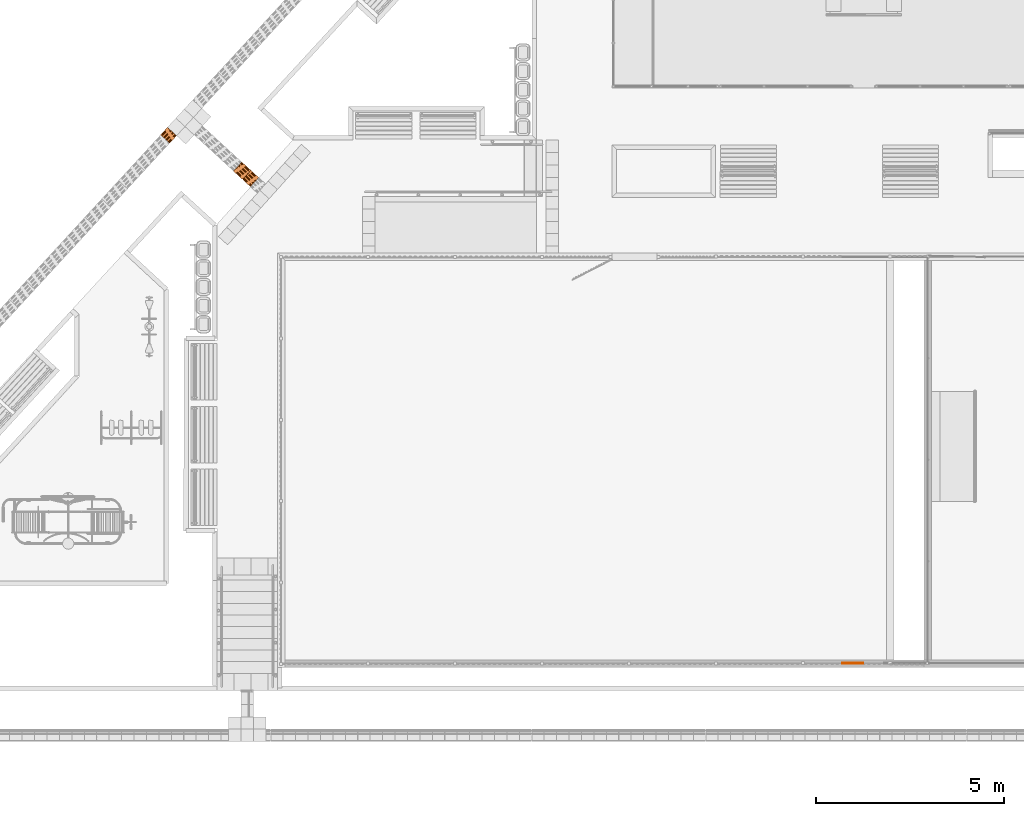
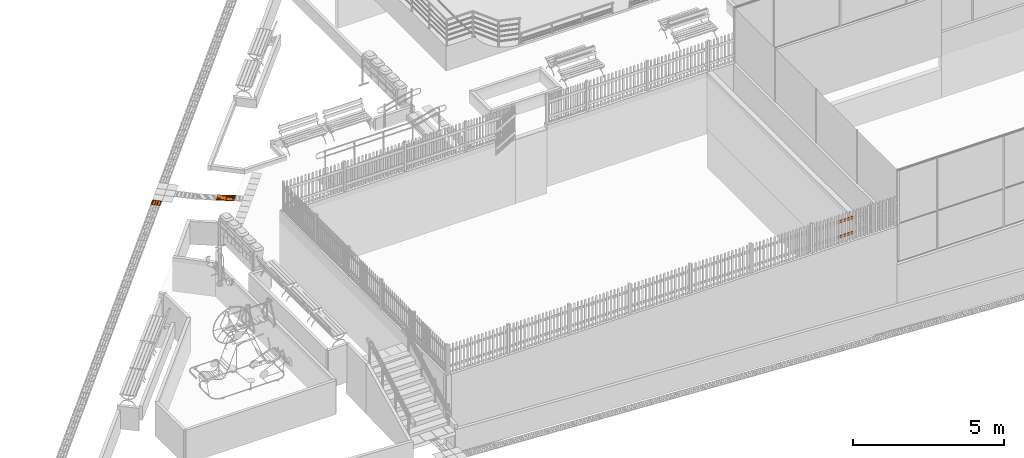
# One storey, part 218 of 237: 5 proxies.
"""IFC2X3 building model written with IfcOpenShell, lengths in millimetres."""

import ifcopenshell
import ifcopenshell.guid

model = None  # the IFC model being written
_history = None  # IfcOwnerHistory: only IFC2X3 demands one
_inside = {}  # id of a spatial element -> (the spatial element, [elements in it])
_under = {}  # id of a project, library or spatial element -> (it, [spatial elements below it])
_declared = {}  # id of a project -> (the project, [libraries it declares])
_typed = {}  # id of a type object -> (the type object, [elements of that type])
_made_of = {}  # id of a material, layer set ... -> (it, [elements and type objects made of it])


def new_model(schema):
    """Start an empty IFC model of exactly this schema.

    Asked for "IFC4X3", IfcOpenShell would pick the latest addendum, in which some entities
    have other attributes; the version numbers below select the first issue.
    IFC2X3 requires an IfcOwnerHistory on every rooted entity: one is made here for all.
    """
    global model, _history
    if schema == "IFC4X3":
        model = ifcopenshell.file(schema_version=(4, 3, 0, 0))
    else:
        model = ifcopenshell.file(schema=schema)
    _inside.clear()
    _under.clear()
    _declared.clear()
    _typed.clear()
    _made_of.clear()
    _history = None
    if model.schema == "IFC2X3":
        org = make("IfcOrganization", Name="unknown")
        user = make(
            "IfcPersonAndOrganization",
            ThePerson=make("IfcPerson", FamilyName="unknown"),
            TheOrganization=org,
        )
        app = make(
            "IfcApplication",
            ApplicationDeveloper=org,
            Version="unknown",
            ApplicationFullName="unknown",
            ApplicationIdentifier="unknown",
        )
        _history = make(
            "IfcOwnerHistory",
            OwningUser=user,
            OwningApplication=app,
            ChangeAction="ADDED",
            CreationDate=0,
        )
    return model


def make(cls, **values):
    """One entity of the class cls with the attributes given. An attribute that is None is left unset."""
    return model.create_entity(
        cls, **{name: value for name, value in values.items() if value is not None}
    )


def entity(cls, *values):
    """Any entity or typed value of the class cls, its attributes in the order of the schema. None: left unset."""
    e = model.create_entity(cls)
    for i, value in enumerate(values):
        if value is not None:
            e[i] = value
    return e


def rooted(cls, **values):
    """An entity with a GlobalId (a new one), such as an element, a storey or a relation."""
    return make(cls, GlobalId=ifcopenshell.guid.new(), OwnerHistory=_history, **values)


def si_unit(unit_type, name, prefix=None):
    """IfcSIUnit, for example si_unit("LENGTHUNIT", "METRE", prefix="MILLI")."""
    return make("IfcSIUnit", UnitType=unit_type, Prefix=prefix, Name=name)


def converted_unit(unit_type, name, factor, base, dimensions=None, offset=None):
    """IfcConversionBasedUnit, such as the inch: factor (a typed value) times the base unit."""
    return make(
        "IfcConversionBasedUnit"
        if offset is None
        else "IfcConversionBasedUnitWithOffset",
        ConversionOffset=offset,
        Dimensions=None
        if dimensions is None
        else entity("IfcDimensionalExponents", *dimensions),
        UnitType=unit_type,
        Name=name,
        ConversionFactor=make(
            "IfcMeasureWithUnit", ValueComponent=factor, UnitComponent=base
        ),
    )


def derived_unit(unit_type, elements):
    """IfcDerivedUnit: a product of units, each with its exponent."""
    return make(
        "IfcDerivedUnit",
        Elements=[
            make("IfcDerivedUnitElement", Unit=unit, Exponent=power)
            for unit, power in elements
        ],
        UnitType=unit_type,
    )


def money_unit(currency):
    """IfcMonetaryUnit."""
    return make("IfcMonetaryUnit", Currency=currency)


def assignment(units):
    """IfcUnitAssignment: the units of a project."""
    return None if units is None else make("IfcUnitAssignment", Units=units)


def point(xyz):
    """IfcCartesianPoint."""
    return None if xyz is None else make("IfcCartesianPoint", Coordinates=xyz)


def direction(xyz):
    """IfcDirection."""
    return None if xyz is None else make("IfcDirection", DirectionRatios=xyz)


def frame(location, z_axis=None, x_axis=None):
    """IfcAxis2Placement3D, a coordinate frame: its origin and axes. An axis left out is left unset."""
    return make(
        "IfcAxis2Placement3D",
        Location=point(location),
        Axis=direction(z_axis),
        RefDirection=direction(x_axis),
    )


def origin_with_axes():
    """The frame at (0, 0, 0) with the z axis (0, 0, 1) and the x axis (1, 0, 0) written out."""
    return frame((0.0, 0.0, 0.0), z_axis=(0.0, 0.0, 1.0), x_axis=(1.0, 0.0, 0.0))


def place(relative_to, where):
    """IfcLocalPlacement: puts the frame where relative to a parent placement (None: the world)."""
    return make(
        "IfcLocalPlacement", PlacementRelTo=relative_to, RelativePlacement=where
    )


def context(
    kind, dimensions, precision=None, world=None, true_north=None, identifier=None
):
    """IfcGeometricRepresentationContext, for example the 3D "Model" context."""
    return make(
        "IfcGeometricRepresentationContext",
        ContextIdentifier=identifier,
        ContextType=kind,
        CoordinateSpaceDimension=dimensions,
        Precision=precision,
        WorldCoordinateSystem=world,
        TrueNorth=true_north,
    )


def subcontext(parent, identifier, kind, view, scale=None):
    """IfcGeometricRepresentationSubContext, for example "Body" below "Model"."""
    return make(
        "IfcGeometricRepresentationSubContext",
        ContextIdentifier=identifier,
        ContextType=kind,
        ParentContext=parent,
        TargetScale=scale,
        TargetView=view,
    )


def project(units=None, contexts=None):
    """IfcProject with its units and contexts."""
    return rooted(
        "IfcProject",
        Name="project",
        RepresentationContexts=contexts,
        UnitsInContext=assignment(units),
    )


def spatial(cls, under=None, at=None, **own):
    """A site, building, storey or space (cls), placed at a placement, below another one or the project."""
    s = rooted(cls, ObjectPlacement=at, **own)
    if under is not None:
        _under.setdefault(under.id(), (under, []))[1].append(s)
    return s


def faces_of(points, faces, orient=None, outer=None):
    """IfcFace entities. A face is a list of loops; a loop is a list of indices into points, from 0.

    orient and outer hold one flag for each loop. By default every Orientation is true, the
    first loop of a face is its IfcFaceOuterBound and the others are IfcFaceBound.
    """
    made = []
    for i, loops in enumerate(faces):
        bounds = []
        for j, loop in enumerate(loops):
            is_outer = j == 0 if outer is None else outer[i][j]
            bounds.append(
                make(
                    "IfcFaceOuterBound" if is_outer else "IfcFaceBound",
                    Bound=make("IfcPolyLoop", Polygon=[points[k] for k in loop]),
                    Orientation=True if orient is None else orient[i][j],
                )
            )
        made.append(make("IfcFace", Bounds=bounds))
    return made


def open_shell(faces, orient=None, outer=None):
    """The faces of one IfcOpenShell. surface_model builds it on its shared points."""
    return ("IfcOpenShell", faces, orient, outer)


def faceted_brep(points, faces, orient=None, outer=None, voids=None):
    """IfcFacetedBrep: a solid bounded by flat faces; with voids (closed shells), ...WithVoids."""
    shared = [point(p) for p in points]
    hull = make("IfcClosedShell", CfsFaces=faces_of(shared, faces, orient, outer))
    if voids is None:
        return make("IfcFacetedBrep", Outer=hull)
    return make(
        "IfcFacetedBrepWithVoids",
        Outer=hull,
        Voids=[
            make(cls, CfsFaces=faces_of(shared, fs, o, b)) for cls, fs, o, b in voids
        ],
    )


def surface_model(cls, points, shells):
    """IfcFaceBasedSurfaceModel or IfcShellBasedSurfaceModel (cls): surfaces that need not close."""
    shared = [point(p) for p in points]
    made = [make(c, CfsFaces=faces_of(shared, fs, o, b)) for c, fs, o, b in shells]
    if cls == "IfcFaceBasedSurfaceModel":
        return make(cls, FbsmFaces=made)
    return make(cls, SbsmBoundary=made)


def shape(context_of_items, identifier, shape_type, items):
    """IfcShapeRepresentation: the items that make up one representation, for example the "Body"."""
    return make(
        "IfcShapeRepresentation",
        ContextOfItems=context_of_items,
        RepresentationIdentifier=identifier,
        RepresentationType=shape_type,
        Items=items,
    )


def made_of(thing, what):
    """Note that an element or type object is made of a material, layer set ...; save() writes the relation."""
    if what is not None:
        _made_of.setdefault(what.id(), (what, []))[1].append(thing)
    return thing


def type_object(cls, material=None, **own):
    """A type object (cls), such as IfcWallType, which elements share."""
    return made_of(rooted(cls, **own), material)


def element(
    cls,
    number,
    at=None,
    inside=None,
    cuts=None,
    type_object=None,
    material=None,
    context=None,
    identifier="Body",
    shape_type=None,
    held_by="IfcProductDefinitionShape",
    body=None,
    shapes=None,
    **own,
):
    """One element of the class cls, such as IfcWall. Its Tag is "e" and its number.

    at: its placement. inside: the storey or other place that contains it. cuts: it is an
    opening in that element (IfcRelVoidsElement). A single representation is given by context,
    identifier, shape_type and body (its items); several are given by shapes. held_by: the class
    of the entity that holds the representations. save() writes the other relations.
    """
    e = rooted(cls, Tag="e%d" % number, ObjectPlacement=at, **own)
    if body is not None:
        shapes = [shape(context, identifier, shape_type, body)]
    if shapes is not None:
        e.Representation = make(held_by, Representations=shapes)
    if inside is not None:
        _inside.setdefault(inside.id(), (inside, []))[1].append(e)
    if cuts is not None:
        rooted(
            "IfcRelVoidsElement", RelatingBuildingElement=cuts, RelatedOpeningElement=e
        )
    if type_object is not None:
        _typed.setdefault(type_object.id(), (type_object, []))[1].append(e)
    return made_of(e, material)


def aggregate(whole, parts):
    """IfcRelAggregates: a whole, such as a stair, and the parts it consists of."""
    return rooted("IfcRelAggregates", RelatingObject=whole, RelatedObjects=parts)


def save(model, path):
    """Write the relations noted so far, then the file.

    IfcRelAggregates (storeys below a building ...), IfcRelContainedInSpatialStructure (elements
    in a storey), IfcRelDefinesByType, IfcRelAssociatesMaterial and IfcRelDeclares: one each for
    every whole, place, type object, material and project.
    """
    for whole, parts in _under.values():
        aggregate(whole, parts)
    for where, things in _inside.values():
        rooted(
            "IfcRelContainedInSpatialStructure",
            RelatedElements=things,
            RelatingStructure=where,
        )
    for kind, things in _typed.values():
        rooted("IfcRelDefinesByType", RelatedObjects=things, RelatingType=kind)
    for what, things in _made_of.values():
        rooted("IfcRelAssociatesMaterial", RelatedObjects=things, RelatingMaterial=what)
    for by, libraries in _declared.values():
        rooted("IfcRelDeclares", RelatingContext=by, RelatedDefinitions=libraries)
    model.write(path)


model = new_model("IFC2X3")

# Units and contexts
model_context = context("Model", 3, precision=0.01, world=origin_with_axes(), true_north=direction((0.0, 1.0)))
body_context = subcontext(model_context, "Body", "Model", "MODEL_VIEW")
ifc_project = project(units=[si_unit("LENGTHUNIT", "METRE", prefix="MILLI"), si_unit("AREAUNIT", "SQUARE_METRE"), si_unit("VOLUMEUNIT", "CUBIC_METRE"), converted_unit("PLANEANGLEUNIT", "DEGREE", entity("IfcPlaneAngleMeasure", 0.0174532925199), si_unit("PLANEANGLEUNIT", "RADIAN"), dimensions=[0, 0, 0, 0, 0, 0, 0]), money_unit("USD"), converted_unit("TIMEUNIT", "Year", entity("IfcTimeMeasure", 31556926.0), si_unit("TIMEUNIT", "SECOND"), dimensions=[0, 0, 1, 0, 0, 0, 0]), si_unit("MASSUNIT", "GRAM", prefix="KILO"), si_unit("THERMODYNAMICTEMPERATUREUNIT", "DEGREE_CELSIUS"), si_unit("LUMINOUSINTENSITYUNIT", "LUMEN"), si_unit("ENERGYUNIT", "JOULE", prefix="MEGA"), derived_unit("THERMALCONDUCTANCEUNIT", [(si_unit("POWERUNIT", "WATT"), 1), (si_unit("LENGTHUNIT", "METRE"), -1), (si_unit("THERMODYNAMICTEMPERATUREUNIT", "KELVIN"), -1)]), derived_unit("SPECIFICHEATCAPACITYUNIT", [(si_unit("ENERGYUNIT", "JOULE"), 1), (si_unit("MASSUNIT", "GRAM", prefix="KILO"), -1), (si_unit("THERMODYNAMICTEMPERATUREUNIT", "KELVIN"), -1)]), derived_unit("MASSDENSITYUNIT", [(si_unit("MASSUNIT", "GRAM", prefix="KILO"), 1), (si_unit("VOLUMEUNIT", "CUBIC_METRE"), -1)])], contexts=[model_context])

# Site, building, storey
site_placement = place(None, origin_with_axes())
site = spatial("IfcSite", under=ifc_project, at=site_placement, Name="Local", CompositionType="ELEMENT")
building_placement = place(site_placement, origin_with_axes())
building = spatial("IfcBuilding", under=site, at=building_placement, Name="Construção", CompositionType="ELEMENT")
storey_placement = place(building_placement, origin_with_axes())
storey = spatial("IfcBuildingStorey", under=building, at=storey_placement, Name="Pavimento Térreo", CompositionType="ELEMENT", Elevation=0.0)

# Proxies
building_element_proxy_type_1 = type_object("IfcBuildingElementProxyType", Name="Piso Direcional 27", PredefinedType="NOTDEFINED")
proxy_1_placement = place(storey_placement, frame((39355.5465019, 26892.5452298, -1771.33140058), z_axis=(0.0, 0.0, 1.0), x_axis=(-0.677327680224, -0.735681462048, 0.0)))
element("IfcBuildingElementProxy", 1, at=proxy_1_placement, inside=storey, type_object=building_element_proxy_type_1, Name="Objeto-0055", context=body_context, shape_type="SurfaceModel", body=[
    surface_model("IfcShellBasedSurfaceModel", [(0.126538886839, -47.258225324, 4.02653266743), (271.512965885, -47.258225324, -4.50212938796), (271.722370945, -41.665004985, 2.16124768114), (0.33594394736, -41.665004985, 10.6899097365)], [open_shell([[[0, 1, 2, 3]]])]),
    surface_model("IfcShellBasedSurfaceModel", [(271.094155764, -153.529411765, -17.8288835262), (271.094155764, 176.470588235, -17.8288835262), (271.512965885, 176.470588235, -4.50212938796), (271.512965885, 154.097706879, -4.50212938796), (271.722370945, 148.50448654, 2.16124768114), (271.722370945, 126.131605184, 2.16124768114), (271.512965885, 120.538384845, -4.50212938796), (271.512965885, 70.1994017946, -4.50212938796), (271.722370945, 64.6061814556, 2.16124768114), (271.722370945, 42.2333000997, 2.16124768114), (271.512965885, 36.6400797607, -4.50212938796), (271.512965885, -13.6989032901, -4.50212938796), (271.722370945, -19.2921236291, 2.16124768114), (271.722370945, -41.665004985, 2.16124768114), (271.512965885, -47.258225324, -4.50212938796), (271.512965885, -97.5972083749, -4.50212938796), (271.722370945, -103.190428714, 2.16124768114), (271.722370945, -125.56331007, 2.16124768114), (271.512965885, -131.156530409, -4.50212938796), (271.512965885, -153.529411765, -4.50212938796)], [open_shell([[[0, 1, 2, 3, 4, 5, 6, 7, 8, 9, 10, 11, 12, 13, 14, 15, 16, 17, 18, 19]]])]),
    surface_model("IfcShellBasedSurfaceModel", [(0.33594394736, -19.2921236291, 10.6899097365), (271.722370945, -19.2921236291, 2.16124768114), (271.512965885, -13.6989032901, -4.50212938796), (0.126538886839, -13.6989032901, 4.02653266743)], [open_shell([[[0, 1, 2, 3]]])]),
    surface_model("IfcShellBasedSurfaceModel", [(0.33594394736, -103.190428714, 10.6899097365), (271.722370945, -103.190428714, 2.16124768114), (271.512965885, -97.5972083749, -4.50212938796), (0.126538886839, -97.5972083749, 4.02653266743)], [open_shell([[[0, 1, 2, 3]]])]),
    surface_model("IfcShellBasedSurfaceModel", [(0.33594394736, 64.6061814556, 10.6899097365), (271.722370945, 64.6061814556, 2.16124768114), (271.512965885, 70.1994017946, -4.50212938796), (0.126538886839, 70.1994017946, 4.02653266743)], [open_shell([[[0, 1, 2, 3]]])]),
    surface_model("IfcShellBasedSurfaceModel", [(0.126538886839, 36.6400797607, 4.02653266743), (271.512965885, 36.6400797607, -4.50212938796), (271.722370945, 42.2333000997, 2.16124768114), (0.33594394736, 42.2333000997, 10.6899097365)], [open_shell([[[0, 1, 2, 3]]])]),
    surface_model("IfcShellBasedSurfaceModel", [(0.126538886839, -131.156530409, 4.02653266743), (271.512965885, -131.156530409, -4.50212938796), (271.722370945, -125.56331007, 2.16124768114), (0.33594394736, -125.56331007, 10.6899097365)], [open_shell([[[0, 1, 2, 3]]])]),
    surface_model("IfcShellBasedSurfaceModel", [(0.126538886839, 176.470588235, 4.02653266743), (0.126538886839, 154.097706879, 4.02653266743), (271.512965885, 154.097706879, -4.50212938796), (271.512965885, 176.470588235, -4.50212938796)], [open_shell([[[0, 1, 2, 3]]])]),
    surface_model("IfcShellBasedSurfaceModel", [(0.126538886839, 120.538384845, 4.02653266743), (271.512965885, 120.538384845, -4.50212938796), (271.722370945, 126.131605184, 2.16124768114), (0.33594394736, 126.131605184, 10.6899097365)], [open_shell([[[0, 1, 2, 3]]])]),
    surface_model("IfcShellBasedSurfaceModel", [(0.33594394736, 148.50448654, 10.6899097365), (271.722370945, 148.50448654, 2.16124768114), (271.512965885, 154.097706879, -4.50212938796), (0.126538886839, 154.097706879, 4.02653266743)], [open_shell([[[0, 1, 2, 3]]])]),
    surface_model("IfcShellBasedSurfaceModel", [(0.126538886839, 36.6400797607, 4.02653266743), (0.126538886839, -13.6989032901, 4.02653266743), (271.512965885, -13.6989032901, -4.50212938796), (271.512965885, 36.6400797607, -4.50212938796)], [open_shell([[[0, 1, 2, 3]]])]),
    surface_model("IfcShellBasedSurfaceModel", [(0.126538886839, 120.538384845, 4.02653266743), (0.126538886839, 70.1994017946, 4.02653266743), (271.512965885, 70.1994017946, -4.50212938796), (271.512965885, 120.538384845, -4.50212938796)], [open_shell([[[0, 1, 2, 3]]])]),
    surface_model("IfcShellBasedSurfaceModel", [(0.33594394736, 148.50448654, 10.6899097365), (0.33594394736, 126.131605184, 10.6899097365), (271.722370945, 126.131605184, 2.16124768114), (271.722370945, 148.50448654, 2.16124768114)], [open_shell([[[0, 1, 2, 3]]])]),
    surface_model("IfcShellBasedSurfaceModel", [(0.126538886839, 120.538384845, 4.02653266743), (0.33594394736, 126.131605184, 10.6899097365), (0.33594394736, 148.50448654, 10.6899097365), (0.126538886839, 154.097706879, 4.02653266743), (0.126538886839, 176.470588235, 4.02653266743), (-0.292271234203, 176.470588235, -9.30022147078), (-0.292271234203, -153.529411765, -9.30022147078), (0.126538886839, -153.529411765, 4.02653266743), (0.126538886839, -131.156530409, 4.02653266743), (0.33594394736, -125.56331007, 10.6899097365), (0.33594394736, -103.190428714, 10.6899097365), (0.126538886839, -97.5972083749, 4.02653266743), (0.126538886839, -47.258225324, 4.02653266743), (0.33594394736, -41.665004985, 10.6899097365), (0.33594394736, -19.2921236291, 10.6899097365), (0.126538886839, -13.6989032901, 4.02653266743), (0.126538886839, 36.6400797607, 4.02653266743), (0.33594394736, 42.2333000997, 10.6899097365), (0.33594394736, 64.6061814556, 10.6899097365), (0.126538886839, 70.1994017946, 4.02653266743)], [open_shell([[[0, 1, 2, 3, 4, 5, 6, 7, 8, 9, 10, 11, 12, 13, 14, 15, 16, 17, 18, 19]]])]),
    surface_model("IfcShellBasedSurfaceModel", [(271.722370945, -41.665004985, 2.16124768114), (271.722370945, -19.2921236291, 2.16124768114), (0.33594394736, -19.2921236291, 10.6899097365), (0.33594394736, -41.665004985, 10.6899097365)], [open_shell([[[0, 1, 2, 3]]])]),
    surface_model("IfcShellBasedSurfaceModel", [(0.126538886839, -47.258225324, 4.02653266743), (0.126538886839, -97.5972083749, 4.02653266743), (271.512965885, -97.5972083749, -4.50212938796), (271.512965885, -47.258225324, -4.50212938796)], [open_shell([[[0, 1, 2, 3]]])]),
    surface_model("IfcShellBasedSurfaceModel", [(271.722370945, 42.2333000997, 2.16124768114), (271.722370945, 64.6061814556, 2.16124768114), (0.33594394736, 64.6061814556, 10.6899097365), (0.33594394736, 42.2333000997, 10.6899097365)], [open_shell([[[0, 1, 2, 3]]])]),
    surface_model("IfcShellBasedSurfaceModel", [(271.722370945, -125.56331007, 2.16124768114), (271.722370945, -103.190428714, 2.16124768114), (0.33594394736, -103.190428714, 10.6899097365), (0.33594394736, -125.56331007, 10.6899097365)], [open_shell([[[0, 1, 2, 3]]])]),
    surface_model("IfcShellBasedSurfaceModel", [(271.094155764, 176.470588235, -17.8288835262), (-0.292271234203, 176.470588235, -9.30022147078), (0.126538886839, 176.470588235, 4.02653266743), (271.512965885, 176.470588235, -4.50212938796)], [open_shell([[[0, 1, 2, 3]]])]),
    surface_model("IfcShellBasedSurfaceModel", [(271.094155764, -153.529411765, -17.8288835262), (-0.292271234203, -153.529411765, -9.30022147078), (-0.292271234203, 176.470588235, -9.30022147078), (271.094155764, 176.470588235, -17.8288835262)], [open_shell([[[0, 1, 2, 3]]])]),
    surface_model("IfcShellBasedSurfaceModel", [(271.512965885, -153.529411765, -4.50212938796), (271.512965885, -131.156530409, -4.50212938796), (0.126538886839, -131.156530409, 4.02653266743), (0.126538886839, -153.529411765, 4.02653266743)], [open_shell([[[0, 1, 2, 3]]])]),
    surface_model("IfcShellBasedSurfaceModel", [(-0.292271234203, -153.529411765, -9.30022147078), (271.094155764, -153.529411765, -17.8288835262), (271.512965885, -153.529411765, -4.50212938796), (0.126538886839, -153.529411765, 4.02653266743)], [open_shell([[[0, 1, 2, 3]]])]),
])
proxy_2_placement = place(storey_placement, frame((41356.8823737, 25739.0088243, -1657.50029992), z_axis=(0.0, 0.0, 1.0), x_axis=(-0.735681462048, 0.677327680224, 0.0)))
element("IfcBuildingElementProxy", 2, at=proxy_2_placement, inside=storey, type_object=building_element_proxy_type_1, Name="Objeto-0055", context=body_context, shape_type="SurfaceModel", body=[
    surface_model("IfcShellBasedSurfaceModel", [(0.410492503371, -47.3098657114, 3.34319315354), (327.950722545, -47.3098657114, -36.8736901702), (328.772622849, -41.8102717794, -30.1798493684), (1.23239280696, -41.8102717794, 10.0370339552)], [open_shell([[[0, 1, 2, 3]]])]),
    surface_model("IfcShellBasedSurfaceModel", [(326.145129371, -153.384530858, -51.5790664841), (326.706644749, 176.583302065, -47.005890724), (328.331410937, 176.39713966, -33.7732320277), (328.293342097, 154.026439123, -34.0832778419), (329.096207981, 148.340682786, -27.5444599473), (329.058139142, 125.969982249, -27.8545057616), (328.236238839, 120.470388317, -34.5483465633), (328.150583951, 70.1363121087, -35.2459496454), (328.953449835, 64.4505557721, -28.7071317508), (328.915380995, 42.079855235, -29.017177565), (328.093480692, 36.5802613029, -35.7110183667), (328.007825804, -13.7538149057, -36.4086214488), (328.810691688, -19.4395712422, -29.8698035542), (328.772622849, -41.8102717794, -30.1798493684), (327.950722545, -47.3098657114, -36.8736901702), (327.865067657, -97.64394192, -37.5712932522), (328.667933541, -103.329698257, -31.0324753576), (328.629864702, -125.700398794, -31.3425211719), (327.807964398, -131.199992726, -38.0363619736), (327.769895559, -153.570693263, -38.3464077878)], [open_shell([[[0, 1, 2, 3, 4, 5, 6, 7, 8, 9, 10, 11, 12, 13, 14, 15, 16, 17, 18, 19]]])]),
    surface_model("IfcShellBasedSurfaceModel", [(1.27046164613, -19.4395712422, 10.3470797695), (328.810691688, -19.4395712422, -29.8698035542), (328.007825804, -13.7538149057, -36.4086214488), (0.467595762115, -13.7538149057, 3.80826187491)], [open_shell([[[0, 1, 2, 3]]])]),
    surface_model("IfcShellBasedSurfaceModel", [(1.12770349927, -103.329698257, 9.18440796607), (328.667933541, -103.329698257, -31.0324753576), (327.865067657, -97.64394192, -37.5712932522), (0.324837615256, -97.64394192, 2.64559007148)], [open_shell([[[0, 1, 2, 3]]])]),
    surface_model("IfcShellBasedSurfaceModel", [(1.41321979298, 64.4505557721, 11.5097515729), (328.953449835, 64.4505557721, -28.7071317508), (328.150583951, 70.1363121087, -35.2459496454), (0.610353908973, 70.1363121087, 4.97093367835)], [open_shell([[[0, 1, 2, 3]]])]),
    surface_model("IfcShellBasedSurfaceModel", [(0.55325065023, 36.5802613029, 4.50586495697), (328.093480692, 36.5802613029, -35.7110183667), (328.915380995, 42.079855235, -29.017177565), (1.37515095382, 42.079855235, 11.1997057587)], [open_shell([[[0, 1, 2, 3]]])]),
    surface_model("IfcShellBasedSurfaceModel", [(0.267734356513, -131.199992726, 2.18052135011), (327.807964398, -131.199992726, -38.0363619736), (328.629864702, -125.700398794, -31.3425211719), (1.0896346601, -125.700398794, 8.87436215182)], [open_shell([[[0, 1, 2, 3]]])]),
    surface_model("IfcShellBasedSurfaceModel", [(0.791180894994, 176.39713966, 6.44365129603), (0.753112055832, 154.026439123, 6.13360548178), (328.293342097, 154.026439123, -34.0832778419), (328.331410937, 176.39713966, -33.7732320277)], [open_shell([[[0, 1, 2, 3]]])]),
    surface_model("IfcShellBasedSurfaceModel", [(0.696008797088, 120.470388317, 5.66853676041), (328.236238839, 120.470388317, -34.5483465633), (329.058139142, 125.969982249, -27.8545057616), (1.51790910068, 125.969982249, 12.3623775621)], [open_shell([[[0, 1, 2, 3]]])]),
    surface_model("IfcShellBasedSurfaceModel", [(1.55597793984, 148.340682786, 12.6724233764), (329.096207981, 148.340682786, -27.5444599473), (328.293342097, 154.026439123, -34.0832778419), (0.753112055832, 154.026439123, 6.13360548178)], [open_shell([[[0, 1, 2, 3]]])]),
    surface_model("IfcShellBasedSurfaceModel", [(0.55325065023, 36.5802613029, 4.50586495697), (0.467595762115, -13.7538149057, 3.80826187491), (328.007825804, -13.7538149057, -36.4086214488), (328.093480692, 36.5802613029, -35.7110183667)], [open_shell([[[0, 1, 2, 3]]])]),
    surface_model("IfcShellBasedSurfaceModel", [(0.696008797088, 120.470388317, 5.66853676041), (0.610353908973, 70.1363121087, 4.97093367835), (328.150583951, 70.1363121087, -35.2459496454), (328.236238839, 120.470388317, -34.5483465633)], [open_shell([[[0, 1, 2, 3]]])]),
    surface_model("IfcShellBasedSurfaceModel", [(1.55597793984, 148.340682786, 12.6724233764), (1.51790910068, 125.969982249, 12.3623775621), (329.058139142, 125.969982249, -27.8545057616), (329.096207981, 148.340682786, -27.5444599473)], [open_shell([[[0, 1, 2, 3]]])]),
    surface_model("IfcShellBasedSurfaceModel", [(0.696008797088, 120.470388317, 5.66853676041), (1.51790910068, 125.969982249, 12.3623775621), (1.55597793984, 148.340682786, 12.6724233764), (0.753112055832, 154.026439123, 6.13360548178), (0.791180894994, 176.39713966, 6.44365129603), (-0.833585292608, 176.583302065, -6.78900740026), (-1.39510067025, -153.384530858, -11.3621831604), (0.22966551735, -153.570693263, 1.87047553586), (0.267734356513, -131.199992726, 2.18052135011), (1.0896346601, -125.700398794, 8.87436215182), (1.12770349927, -103.329698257, 9.18440796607), (0.324837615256, -97.64394192, 2.64559007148), (0.410492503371, -47.3098657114, 3.34319315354), (1.23239280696, -41.8102717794, 10.0370339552), (1.27046164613, -19.4395712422, 10.3470797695), (0.467595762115, -13.7538149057, 3.80826187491), (0.55325065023, 36.5802613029, 4.50586495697), (1.37515095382, 42.079855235, 11.1997057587), (1.41321979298, 64.4505557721, 11.5097515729), (0.610353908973, 70.1363121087, 4.97093367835)], [open_shell([[[0, 1, 2, 3, 4, 5, 6, 7, 8, 9, 10, 11, 12, 13, 14, 15, 16, 17, 18, 19]]])]),
    surface_model("IfcShellBasedSurfaceModel", [(328.772622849, -41.8102717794, -30.1798493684), (328.810691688, -19.4395712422, -29.8698035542), (1.27046164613, -19.4395712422, 10.3470797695), (1.23239280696, -41.8102717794, 10.0370339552)], [open_shell([[[0, 1, 2, 3]]])]),
    surface_model("IfcShellBasedSurfaceModel", [(0.410492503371, -47.3098657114, 3.34319315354), (0.324837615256, -97.64394192, 2.64559007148), (327.865067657, -97.64394192, -37.5712932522), (327.950722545, -47.3098657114, -36.8736901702)], [open_shell([[[0, 1, 2, 3]]])]),
    surface_model("IfcShellBasedSurfaceModel", [(328.915380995, 42.079855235, -29.017177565), (328.953449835, 64.4505557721, -28.7071317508), (1.41321979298, 64.4505557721, 11.5097515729), (1.37515095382, 42.079855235, 11.1997057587)], [open_shell([[[0, 1, 2, 3]]])]),
    surface_model("IfcShellBasedSurfaceModel", [(328.629864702, -125.700398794, -31.3425211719), (328.667933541, -103.329698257, -31.0324753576), (1.12770349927, -103.329698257, 9.18440796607), (1.0896346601, -125.700398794, 8.87436215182)], [open_shell([[[0, 1, 2, 3]]])]),
    surface_model("IfcShellBasedSurfaceModel", [(326.706644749, 176.583302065, -47.005890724), (-0.833585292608, 176.583302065, -6.78900740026), (0.791180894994, 176.39713966, 6.44365129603), (328.331410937, 176.39713966, -33.7732320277)], [open_shell([[[0, 1, 2, 3]]])]),
    surface_model("IfcShellBasedSurfaceModel", [(326.145129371, -153.384530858, -51.5790664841), (-1.39510067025, -153.384530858, -11.3621831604), (-0.833585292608, 176.583302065, -6.78900740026), (326.706644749, 176.583302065, -47.005890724)], [open_shell([[[0, 1, 2, 3]]])]),
    surface_model("IfcShellBasedSurfaceModel", [(327.769895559, -153.570693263, -38.3464077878), (327.807964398, -131.199992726, -38.0363619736), (0.267734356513, -131.199992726, 2.18052135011), (0.22966551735, -153.570693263, 1.87047553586)], [open_shell([[[0, 1, 2, 3]]])]),
    surface_model("IfcShellBasedSurfaceModel", [(-1.39510067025, -153.384530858, -11.3621831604), (326.145129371, -153.384530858, -51.5790664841), (327.769895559, -153.570693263, -38.3464077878), (0.22966551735, -153.570693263, 1.87047553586)], [open_shell([[[0, 1, 2, 3]]])]),
])
proxy_3_placement = place(storey_placement, frame((41567.7168498, 25544.9017847, -1617.67924311), z_axis=(0.0, 0.0, 1.0), x_axis=(-0.735681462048, 0.677327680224, 0.0)))
element("IfcBuildingElementProxy", 3, at=proxy_3_placement, inside=storey, type_object=building_element_proxy_type_1, Name="Objeto-0055", context=body_context, shape_type="SurfaceModel", body=[
    surface_model("IfcShellBasedSurfaceModel", [(0.55081660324, -47.2511222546, 4.07392745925), (284.311392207, -47.2511222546, -34.2920076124), (285.203324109, -41.6462749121, -27.695136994), (1.44274850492, -41.6462749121, 10.6707980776)], [open_shell([[[0, 1, 2, 3]]])]),
    surface_model("IfcShellBasedSurfaceModel", [(282.549763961, -153.54541788, -47.3212911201), (282.472593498, 176.454079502, -47.8920561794), (284.259073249, 176.477350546, -34.6789669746), (284.264305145, 154.104503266, -34.6402710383), (285.158852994, 148.522926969, -28.0240524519), (285.16408489, 126.150079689, -27.9853565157), (284.272152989, 120.545232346, -34.582227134), (284.283924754, 70.2063259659, -34.4951612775), (285.178472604, 64.6247496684, -27.878942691), (285.1837045, 42.2519023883, -27.8402467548), (284.291772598, 36.6470550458, -34.4371173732), (284.303544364, -13.6918513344, -34.3500515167), (285.198092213, -19.273427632, -27.7338329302), (285.203324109, -41.6462749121, -27.695136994), (284.311392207, -47.2511222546, -34.2920076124), (284.323163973, -97.5900286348, -34.2049417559), (285.217711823, -103.171604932, -27.5887231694), (285.222943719, -125.544452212, -27.5500272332), (284.331011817, -131.149299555, -34.1468978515), (284.336243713, -153.522146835, -34.1082019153)], [open_shell([[[0, 1, 2, 3, 4, 5, 6, 7, 8, 9, 10, 11, 12, 13, 14, 15, 16, 17, 18, 19]]])]),
    surface_model("IfcShellBasedSurfaceModel", [(1.43751660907, -19.273427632, 10.6321021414), (285.198092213, -19.273427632, -27.7338329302), (284.303544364, -13.6918513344, -34.3500515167), (0.542968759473, -13.6918513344, 4.01588355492)], [open_shell([[[0, 1, 2, 3]]])]),
    surface_model("IfcShellBasedSurfaceModel", [(1.45713621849, -103.171604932, 10.7772119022), (285.217711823, -103.171604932, -27.5887231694), (284.323163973, -97.5900286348, -34.2049417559), (0.562588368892, -97.5900286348, 4.16099331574)], [open_shell([[[0, 1, 2, 3]]])]),
    surface_model("IfcShellBasedSurfaceModel", [(1.41789699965, 64.6247496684, 10.4869923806), (285.178472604, 64.6247496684, -27.878942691), (284.283924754, 70.2063259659, -34.4951612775), (0.523349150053, 70.2063259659, 3.87077379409)], [open_shell([[[0, 1, 2, 3]]])]),
    surface_model("IfcShellBasedSurfaceModel", [(0.531196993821, 36.6470550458, 3.92881769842), (284.291772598, 36.6470550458, -34.4371173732), (285.1837045, 42.2519023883, -27.8402467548), (1.4231288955, 42.2519023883, 10.5256883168)], [open_shell([[[0, 1, 2, 3]]])]),
    surface_model("IfcShellBasedSurfaceModel", [(0.57043621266, -131.149299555, 4.21903722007), (284.331011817, -131.149299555, -34.1468978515), (285.222943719, -125.544452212, -27.5500272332), (1.46236811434, -125.544452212, 10.8159078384)], [open_shell([[[0, 1, 2, 3]]])]),
    surface_model("IfcShellBasedSurfaceModel", [(0.498497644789, 176.477350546, 3.68696809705), (0.503729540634, 154.104503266, 3.72566403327), (284.264305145, 154.104503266, -34.6402710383), (284.259073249, 176.477350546, -34.6789669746)], [open_shell([[[0, 1, 2, 3]]])]),
    surface_model("IfcShellBasedSurfaceModel", [(0.511577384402, 120.545232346, 3.7837079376), (284.272152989, 120.545232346, -34.582227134), (285.16408489, 126.150079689, -27.9853565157), (1.40350928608, 126.150079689, 10.380578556)], [open_shell([[[0, 1, 2, 3]]])]),
    surface_model("IfcShellBasedSurfaceModel", [(1.39827739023, 148.522926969, 10.3418826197), (285.158852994, 148.522926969, -28.0240524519), (284.264305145, 154.104503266, -34.6402710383), (0.503729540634, 154.104503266, 3.72566403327)], [open_shell([[[0, 1, 2, 3]]])]),
    surface_model("IfcShellBasedSurfaceModel", [(0.531196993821, 36.6470550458, 3.92881769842), (0.542968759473, -13.6918513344, 4.01588355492), (284.303544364, -13.6918513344, -34.3500515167), (284.291772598, 36.6470550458, -34.4371173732)], [open_shell([[[0, 1, 2, 3]]])]),
    surface_model("IfcShellBasedSurfaceModel", [(0.511577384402, 120.545232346, 3.7837079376), (0.523349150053, 70.2063259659, 3.87077379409), (284.283924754, 70.2063259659, -34.4951612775), (284.272152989, 120.545232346, -34.582227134)], [open_shell([[[0, 1, 2, 3]]])]),
    surface_model("IfcShellBasedSurfaceModel", [(1.39827739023, 148.522926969, 10.3418826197), (1.40350928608, 126.150079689, 10.380578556), (285.16408489, 126.150079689, -27.9853565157), (285.158852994, 148.522926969, -28.0240524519)], [open_shell([[[0, 1, 2, 3]]])]),
    surface_model("IfcShellBasedSurfaceModel", [(0.511577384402, 120.545232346, 3.7837079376), (1.40350928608, 126.150079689, 10.380578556), (1.39827739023, 148.522926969, 10.3418826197), (0.503729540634, 154.104503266, 3.72566403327), (0.498497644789, 176.477350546, 3.68696809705), (-1.28798210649, 176.454079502, -9.52612110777), (-1.21081164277, -153.54541788, -8.95535604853), (0.575668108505, -153.522146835, 4.25773315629), (0.57043621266, -131.149299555, 4.21903722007), (1.46236811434, -125.544452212, 10.8159078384), (1.45713621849, -103.171604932, 10.7772119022), (0.562588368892, -97.5900286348, 4.16099331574), (0.55081660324, -47.2511222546, 4.07392745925), (1.44274850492, -41.6462749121, 10.6707980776), (1.43751660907, -19.273427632, 10.6321021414), (0.542968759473, -13.6918513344, 4.01588355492), (0.531196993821, 36.6470550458, 3.92881769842), (1.4231288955, 42.2519023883, 10.5256883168), (1.41789699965, 64.6247496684, 10.4869923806), (0.523349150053, 70.2063259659, 3.87077379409)], [open_shell([[[0, 1, 2, 3, 4, 5, 6, 7, 8, 9, 10, 11, 12, 13, 14, 15, 16, 17, 18, 19]]])]),
    surface_model("IfcShellBasedSurfaceModel", [(285.203324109, -41.6462749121, -27.695136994), (285.198092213, -19.273427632, -27.7338329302), (1.43751660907, -19.273427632, 10.6321021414), (1.44274850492, -41.6462749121, 10.6707980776)], [open_shell([[[0, 1, 2, 3]]])]),
    surface_model("IfcShellBasedSurfaceModel", [(0.55081660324, -47.2511222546, 4.07392745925), (0.562588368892, -97.5900286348, 4.16099331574), (284.323163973, -97.5900286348, -34.2049417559), (284.311392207, -47.2511222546, -34.2920076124)], [open_shell([[[0, 1, 2, 3]]])]),
    surface_model("IfcShellBasedSurfaceModel", [(285.1837045, 42.2519023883, -27.8402467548), (285.178472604, 64.6247496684, -27.878942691), (1.41789699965, 64.6247496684, 10.4869923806), (1.4231288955, 42.2519023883, 10.5256883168)], [open_shell([[[0, 1, 2, 3]]])]),
    surface_model("IfcShellBasedSurfaceModel", [(285.222943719, -125.544452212, -27.5500272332), (285.217711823, -103.171604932, -27.5887231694), (1.45713621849, -103.171604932, 10.7772119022), (1.46236811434, -125.544452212, 10.8159078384)], [open_shell([[[0, 1, 2, 3]]])]),
    surface_model("IfcShellBasedSurfaceModel", [(282.472593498, 176.454079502, -47.8920561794), (-1.28798210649, 176.454079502, -9.52612110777), (0.498497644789, 176.477350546, 3.68696809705), (284.259073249, 176.477350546, -34.6789669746)], [open_shell([[[0, 1, 2, 3]]])]),
    surface_model("IfcShellBasedSurfaceModel", [(282.549763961, -153.54541788, -47.3212911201), (-1.21081164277, -153.54541788, -8.95535604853), (-1.28798210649, 176.454079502, -9.52612110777), (282.472593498, 176.454079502, -47.8920561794)], [open_shell([[[0, 1, 2, 3]]])]),
    surface_model("IfcShellBasedSurfaceModel", [(284.336243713, -153.522146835, -34.1082019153), (284.331011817, -131.149299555, -34.1468978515), (0.57043621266, -131.149299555, 4.21903722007), (0.575668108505, -153.522146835, 4.25773315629)], [open_shell([[[0, 1, 2, 3]]])]),
    surface_model("IfcShellBasedSurfaceModel", [(-1.21081164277, -153.54541788, -8.95535604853), (282.549763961, -153.54541788, -47.3212911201), (284.336243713, -153.522146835, -34.1082019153), (0.575668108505, -153.522146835, 4.25773315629)], [open_shell([[[0, 1, 2, 3]]])]),
])
building_element_proxy_type_2 = type_object("IfcBuildingElementProxyType", Name="FALTA", PredefinedType="NOTDEFINED")
proxy_4_placement = place(storey_placement, frame((57193.9609857, 12705.6167027, -1173.86351895), z_axis=(0.0, 0.0, 1.0), x_axis=(1.0, 0.0, 0.0)))
element("IfcBuildingElementProxy", 4, at=proxy_4_placement, inside=storey, type_object=building_element_proxy_type_2, Name="Objeto-0044", context=body_context, shape_type="Brep", body=[
    faceted_brep([(0.0, 23.3007677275, 927.327098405), (0.0, 23.3007677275, 810.191043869), (558.741959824, 23.3007677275, 810.191043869), (558.741959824, 23.3007677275, 927.327098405), (0.0, 46.6015354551, 927.327098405), (0.0, 46.6015354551, 810.191043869), (558.741959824, 46.6015354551, 810.191043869), (558.741959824, 46.6015354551, 927.327098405)], [[[0, 1, 2, 3]], [[1, 0, 4, 5]], [[2, 1, 5, 6]], [[3, 2, 6, 7]], [[4, 0, 3, 7]], [[5, 4, 7, 6]]]),
])
proxy_5_placement = place(storey_placement, frame((57193.9609857, 12705.6167027, -1173.86351895), z_axis=(0.0, 0.0, 1.0), x_axis=(1.0, 0.0, 0.0)))
element("IfcBuildingElementProxy", 5, at=proxy_5_placement, inside=storey, type_object=building_element_proxy_type_2, Name="Objeto-0044", context=body_context, shape_type="Brep", body=[
    faceted_brep([(0.0, 23.3007677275, 195.226757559), (558.741959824, 23.3007677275, 195.226757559), (558.741959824, 23.3007677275, 312.362812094), (0.0, 23.3007677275, 312.362812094), (0.0, 46.6015354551, 195.226757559), (558.741959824, 46.6015354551, 195.226757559), (558.741959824, 46.6015354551, 312.362812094), (0.0, 46.6015354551, 312.362812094)], [[[0, 1, 2, 3]], [[1, 0, 4, 5]], [[1, 5, 6, 2]], [[7, 3, 2, 6]], [[4, 0, 3, 7]], [[5, 4, 7, 6]]]),
])

save(model, "model.ifc")
